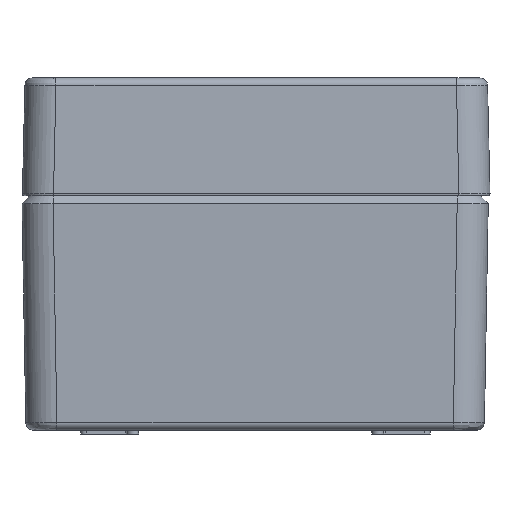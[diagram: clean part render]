
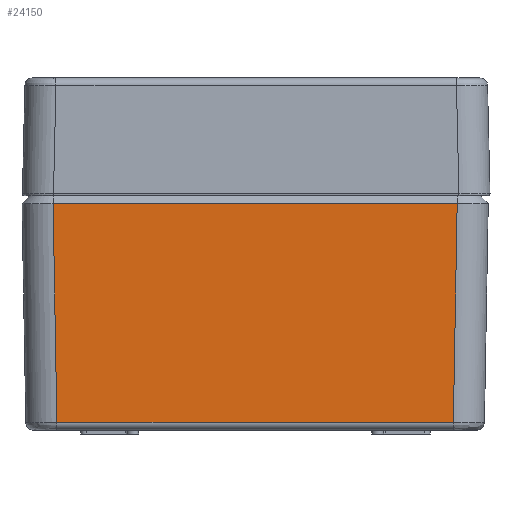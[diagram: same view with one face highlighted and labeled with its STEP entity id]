
A CAD part, left-side view. The second image highlights one B-rep face of the part: STEP entity #24150.
In plain terms, the highlighted planar face has unit normal (-1, 0, -0.018).
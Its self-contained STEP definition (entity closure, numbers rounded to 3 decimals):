
#1242 = EDGE_LOOP ( 'NONE', ( #32448, #59290, #66615, #50243 ) ) ;
#2212 = LINE ( 'NONE', #44230, #68473 ) ;
#7089 = PLANE ( 'NONE',  #55403 ) ;
#8187 = EDGE_CURVE ( 'NONE', #26650, #69847, #2212, .T. ) ;
#16108 = DIRECTION ( 'NONE',  ( 0., 1., 0. ) ) ;
#17337 = EDGE_CURVE ( 'NONE', #26650, #32217, #37215, .T. ) ;
#24150 = ADVANCED_FACE ( 'NONE', ( #38254 ), #7089, .T. ) ;
#26650 = VERTEX_POINT ( 'NONE', #53083 ) ;
#32217 = VERTEX_POINT ( 'NONE', #38563 ) ;
#32448 = ORIENTED_EDGE ( 'NONE', *, *, #33015, .F. ) ;
#33015 = EDGE_CURVE ( 'NONE', #32217, #48493, #70147, .T. ) ;
#35645 = DIRECTION ( 'NONE',  ( 0.017, 0., -1. ) ) ;
#35741 = DIRECTION ( 'NONE',  ( 0.017, 0.017, -1. ) ) ;
#36129 = DIRECTION ( 'NONE',  ( -1., 0., -0.017 ) ) ;
#37215 = LINE ( 'NONE', #58458, #45241 ) ;
#38254 = FACE_OUTER_BOUND ( 'NONE', #1242, .T. ) ;
#38563 = CARTESIAN_POINT ( 'NONE',  ( -108.981, -50.813, -58.335 ) ) ;
#41687 = DIRECTION ( 'NONE',  ( 0.017, -0.017, -1. ) ) ;
#44230 = CARTESIAN_POINT ( 'NONE',  ( -109.964, 0.215, -2. ) ) ;
#44573 = CARTESIAN_POINT ( 'NONE',  ( -108.981, 51.243, -58.335 ) ) ;
#44984 = EDGE_CURVE ( 'NONE', #69847, #48493, #71081, .T. ) ;
#45241 = VECTOR ( 'NONE', #35741, 1000. ) ;
#48458 = DIRECTION ( 'NONE',  ( 0., 1., 0. ) ) ;
#48493 = VERTEX_POINT ( 'NONE', #44573 ) ;
#48702 = CARTESIAN_POINT ( 'NONE',  ( -108.981, 0.215, -58.335 ) ) ;
#50243 = ORIENTED_EDGE ( 'NONE', *, *, #44984, .T. ) ;
#53083 = CARTESIAN_POINT ( 'NONE',  ( -109.964, -51.796, -2. ) ) ;
#53433 = CARTESIAN_POINT ( 'NONE',  ( -108.946, 51.208, -60.3 ) ) ;
#55403 = AXIS2_PLACEMENT_3D ( 'NONE', #64598, #36129, #35645 ) ;
#57074 = CARTESIAN_POINT ( 'NONE',  ( -109.964, 52.226, -2. ) ) ;
#58431 = VECTOR ( 'NONE', #48458, 1000. ) ;
#58458 = CARTESIAN_POINT ( 'NONE',  ( -109.499, -51.331, -28.642 ) ) ;
#59290 = ORIENTED_EDGE ( 'NONE', *, *, #17337, .F. ) ;
#64598 = CARTESIAN_POINT ( 'NONE',  ( -111.531, 136.767, 87.789 ) ) ;
#66497 = VECTOR ( 'NONE', #41687, 1000. ) ;
#66615 = ORIENTED_EDGE ( 'NONE', *, *, #8187, .T. ) ;
#68473 = VECTOR ( 'NONE', #16108, 1000. ) ;
#69847 = VERTEX_POINT ( 'NONE', #57074 ) ;
#70147 = LINE ( 'NONE', #48702, #58431 ) ;
#71081 = LINE ( 'NONE', #53433, #66497 ) ;
